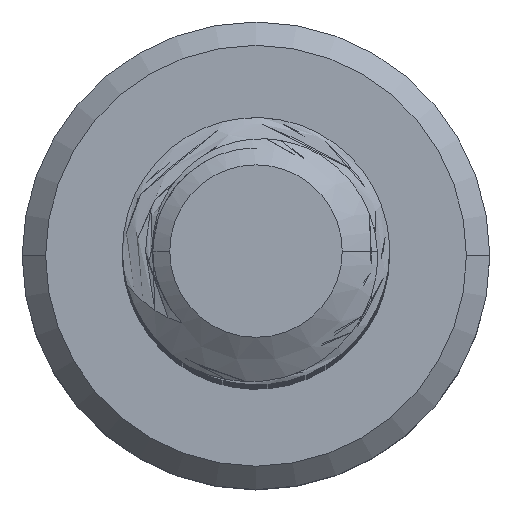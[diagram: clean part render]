
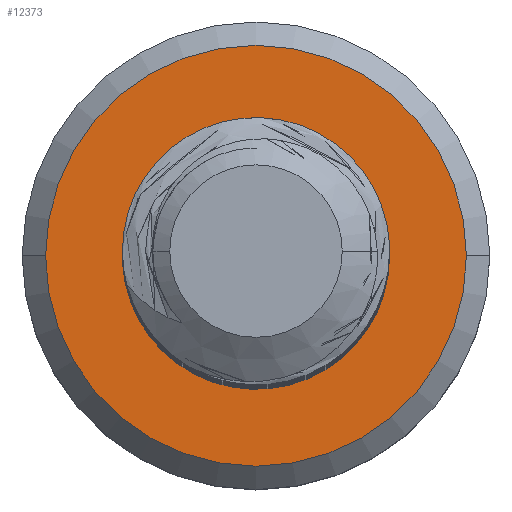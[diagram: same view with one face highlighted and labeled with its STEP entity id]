
A CAD part, top view. The second image highlights one B-rep face of the part: STEP entity #12373.
In plain terms, the highlighted planar face has unit normal (0, 0, 1).
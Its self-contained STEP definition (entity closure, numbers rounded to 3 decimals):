
#9 = B_SPLINE_CURVE_WITH_KNOTS ( 'NONE', 3,
 ( #10554, #10591, #5142, #12694, #4095, #6416, #13777, #9614, #12774, #4189, #2033, #9663, #1058, #7454, #3197, #6209 ),
 .UNSPECIFIED., .F., .F.,
 ( 4, 2, 2, 2, 2, 2, 2, 4 ),
 ( 0., 0.001, 0.001, 0.002, 0.002, 0.003, 0.004, 0.004 ),
 .UNSPECIFIED. ) ;
#201 = VERTEX_POINT ( 'NONE', #536 ) ;
#291 = CARTESIAN_POINT ( 'NONE',  ( 1.553, 1.261, -40. ) ) ;
#497 = CARTESIAN_POINT ( 'NONE',  ( -0.185, -1.534, -40. ) ) ;
#536 = CARTESIAN_POINT ( 'NONE',  ( 0.239, 1.986, -40. ) ) ;
#537 = EDGE_CURVE ( 'NONE', #6913, #201, #2778, .T. ) ;
#634 = CARTESIAN_POINT ( 'NONE',  ( 1.014, -1.366, -40. ) ) ;
#779 = DIRECTION ( 'NONE',  ( 0., 0., 1. ) ) ;
#847 = EDGE_LOOP ( 'NONE', ( #7821, #1195, #8999, #8330 ) ) ;
#972 = AXIS2_PLACEMENT_3D ( 'NONE', #8256, #9193, #2828 ) ;
#1058 = CARTESIAN_POINT ( 'NONE',  ( -0.456, 1.888, -40. ) ) ;
#1104 = EDGE_CURVE ( 'NONE', #11249, #6033, #11733, .T. ) ;
#1195 = ORIENTED_EDGE ( 'NONE', *, *, #8987, .T. ) ;
#1249 = DIRECTION ( 'NONE',  ( 1., 0., 0. ) ) ;
#1614 = PLANE ( 'NONE',  #13047 ) ;
#1747 = CARTESIAN_POINT ( 'NONE',  ( 1.714, -0.591, -40. ) ) ;
#2033 = CARTESIAN_POINT ( 'NONE',  ( -1.078, 1.557, -40. ) ) ;
#2425 = CARTESIAN_POINT ( 'NONE',  ( -0.185, -1.534, -40. ) ) ;
#2542 = AXIS2_PLACEMENT_3D ( 'NONE', #8809, #13182, #12043 ) ;
#2554 = CARTESIAN_POINT ( 'NONE',  ( 1.73, 0.956, -40. ) ) ;
#2778 = CIRCLE ( 'NONE', #2542, 2. ) ;
#2828 = DIRECTION ( 'NONE',  ( -1., 0., 0. ) ) ;
#3197 = CARTESIAN_POINT ( 'NONE',  ( 0.062, 1.99, -40. ) ) ;
#3734 = CIRCLE ( 'NONE', #5468, 1.545 ) ;
#3809 = CARTESIAN_POINT ( 'NONE',  ( 0., 0., -40. ) ) ;
#4095 = CARTESIAN_POINT ( 'NONE',  ( -1.643, -0.221, -40. ) ) ;
#4189 = CARTESIAN_POINT ( 'NONE',  ( -1.331, 1.293, -40. ) ) ;
#4461 = VERTEX_POINT ( 'NONE', #5058 ) ;
#4700 = AXIS2_PLACEMENT_3D ( 'NONE', #8306, #779, #9385 ) ;
#4715 = CARTESIAN_POINT ( 'NONE',  ( 1.842, 0.62, -40. ) ) ;
#4762 = CARTESIAN_POINT ( 'NONE',  ( 1.782, -0.424, -40. ) ) ;
#4810 = CARTESIAN_POINT ( 'NONE',  ( 1.359, -1.093, -40. ) ) ;
#4852 = CARTESIAN_POINT ( 'NONE',  ( 0.518, -1.553, -40. ) ) ;
#5058 = CARTESIAN_POINT ( 'NONE',  ( -1.2, -0.974, -40. ) ) ;
#5142 = CARTESIAN_POINT ( 'NONE',  ( -1.43, -0.707, -40. ) ) ;
#5260 = FACE_BOUND ( 'NONE', #847, .T. ) ;
#5322 = CARTESIAN_POINT ( 'NONE',  ( -3.15, 0., -40. ) ) ;
#5468 = AXIS2_PLACEMENT_3D ( 'NONE', #10884, #9759, #1249 ) ;
#5513 = CIRCLE ( 'NONE', #4700, 3.15 ) ;
#5554 = EDGE_CURVE ( 'NONE', #10035, #4461, #3734, .T. ) ;
#5933 = CARTESIAN_POINT ( 'NONE',  ( 0.689, -1.509, -40. ) ) ;
#6033 = VERTEX_POINT ( 'NONE', #7360 ) ;
#6209 = CARTESIAN_POINT ( 'NONE',  ( 0.239, 1.986, -40. ) ) ;
#6416 = CARTESIAN_POINT ( 'NONE',  ( -1.695, 0.13, -40. ) ) ;
#6558 = EDGE_CURVE ( 'NONE', #6033, #11249, #5513, .T. ) ;
#6583 = ORIENTED_EDGE ( 'NONE', *, *, #6558, .T. ) ;
#6801 = CARTESIAN_POINT ( 'NONE',  ( 1.553, 1.261, -40. ) ) ;
#6851 = CARTESIAN_POINT ( 'NONE',  ( 1.651, 1.113, -40. ) ) ;
#6913 = VERTEX_POINT ( 'NONE', #291 ) ;
#7074 = CARTESIAN_POINT ( 'NONE',  ( 1.867, -0.084, -40. ) ) ;
#7360 = CARTESIAN_POINT ( 'NONE',  ( 3.15, 0., -40. ) ) ;
#7454 = CARTESIAN_POINT ( 'NONE',  ( -0.116, 1.973, -40. ) ) ;
#7821 = ORIENTED_EDGE ( 'NONE', *, *, #537, .F. ) ;
#7925 = DIRECTION ( 'NONE',  ( 0., 0., -1. ) ) ;
#8024 = CARTESIAN_POINT ( 'NONE',  ( 1.162, -1.269, -40. ) ) ;
#8256 = CARTESIAN_POINT ( 'NONE',  ( 0., 0., -40. ) ) ;
#8306 = CARTESIAN_POINT ( 'NONE',  ( 0., 0., -40. ) ) ;
#8330 = ORIENTED_EDGE ( 'NONE', *, *, #12618, .T. ) ;
#8809 = CARTESIAN_POINT ( 'NONE',  ( 0., 0., -40. ) ) ;
#8987 = EDGE_CURVE ( 'NONE', #6913, #10035, #10091, .T. ) ;
#8998 = EDGE_LOOP ( 'NONE', ( #11283, #6583 ) ) ;
#8999 = ORIENTED_EDGE ( 'NONE', *, *, #5554, .T. ) ;
#9193 = DIRECTION ( 'NONE',  ( 0., 0., 1. ) ) ;
#9288 = CARTESIAN_POINT ( 'NONE',  ( 1.42, -1.027, -40. ) ) ;
#9385 = DIRECTION ( 'NONE',  ( -1., 0., 0. ) ) ;
#9614 = CARTESIAN_POINT ( 'NONE',  ( -1.633, 0.656, -40. ) ) ;
#9663 = CARTESIAN_POINT ( 'NONE',  ( -0.623, 1.821, -40. ) ) ;
#9759 = DIRECTION ( 'NONE',  ( 0., 0., -1. ) ) ;
#10035 = VERTEX_POINT ( 'NONE', #2425 ) ;
#10091 = B_SPLINE_CURVE_WITH_KNOTS ( 'NONE', 3,
 ( #6801, #6851, #2554, #4715, #13347, #11248, #7074, #4762, #1747, #10235, #10327, #9288, #4810, #8024, #634, #5933, #4852, #13438, #11295, #497 ),
 .UNSPECIFIED., .F., .F.,
 ( 4, 2, 2, 2, 2, 2, 2, 2, 2, 4 ),
 ( 0., 0.001, 0.001, 0.002, 0.002, 0.002, 0.003, 0.003, 0.004, 0.004 ),
 .UNSPECIFIED. ) ;
#10233 = DIRECTION ( 'NONE',  ( -1., 0., 0. ) ) ;
#10235 = CARTESIAN_POINT ( 'NONE',  ( 1.58, -0.818, -40. ) ) ;
#10327 = CARTESIAN_POINT ( 'NONE',  ( 1.531, -0.89, -40. ) ) ;
#10554 = CARTESIAN_POINT ( 'NONE',  ( -1.2, -0.974, -40. ) ) ;
#10591 = CARTESIAN_POINT ( 'NONE',  ( -1.328, -0.85, -40. ) ) ;
#10884 = CARTESIAN_POINT ( 'NONE',  ( 0., 0., -40. ) ) ;
#10979 = FACE_OUTER_BOUND ( 'NONE', #8998, .T. ) ;
#11248 = CARTESIAN_POINT ( 'NONE',  ( 1.886, 0.095, -40. ) ) ;
#11249 = VERTEX_POINT ( 'NONE', #5322 ) ;
#11283 = ORIENTED_EDGE ( 'NONE', *, *, #1104, .T. ) ;
#11295 = CARTESIAN_POINT ( 'NONE',  ( -0.011, -1.577, -40. ) ) ;
#11733 = CIRCLE ( 'NONE', #972, 3.15 ) ;
#12043 = DIRECTION ( 'NONE',  ( 1., 0., 0. ) ) ;
#12373 = ADVANCED_FACE ( 'NONE', ( #10979, #5260 ), #1614, .F. ) ;
#12618 = EDGE_CURVE ( 'NONE', #4461, #201, #9, .T. ) ;
#12694 = CARTESIAN_POINT ( 'NONE',  ( -1.59, -0.389, -40. ) ) ;
#12774 = CARTESIAN_POINT ( 'NONE',  ( -1.576, 0.822, -40. ) ) ;
#13047 = AXIS2_PLACEMENT_3D ( 'NONE', #3809, #7925, #10233 ) ;
#13182 = DIRECTION ( 'NONE',  ( 0., 0., 1. ) ) ;
#13347 = CARTESIAN_POINT ( 'NONE',  ( 1.873, 0.445, -40. ) ) ;
#13438 = CARTESIAN_POINT ( 'NONE',  ( 0.164, -1.587, -40. ) ) ;
#13777 = CARTESIAN_POINT ( 'NONE',  ( -1.693, 0.305, -40. ) ) ;
